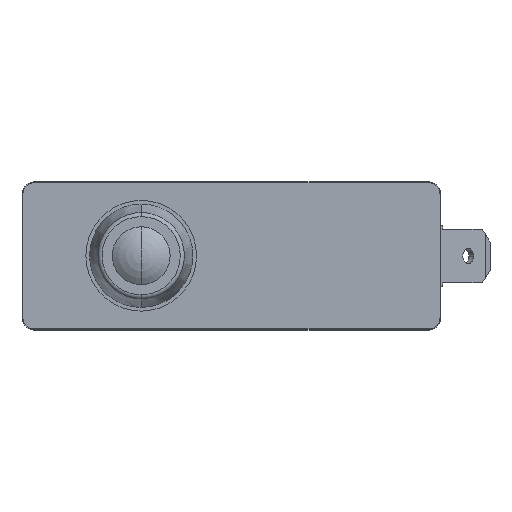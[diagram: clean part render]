
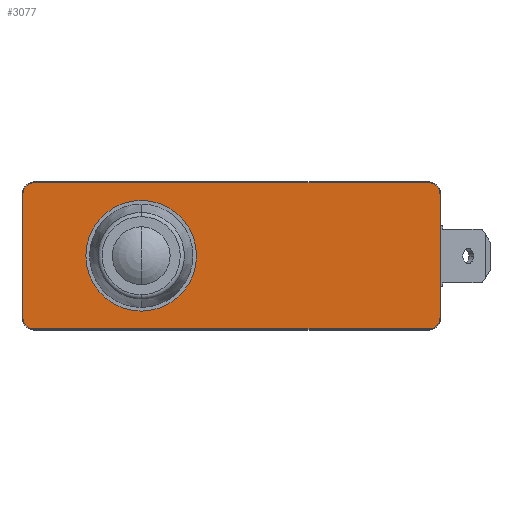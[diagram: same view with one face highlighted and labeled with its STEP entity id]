
A CAD part, top view. The second image highlights one B-rep face of the part: STEP entity #3077.
In plain terms, the highlighted planar face has unit normal (0, 0, 1).
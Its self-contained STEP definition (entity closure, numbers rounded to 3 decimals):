
#98 = CARTESIAN_POINT ( 'NONE',  ( -4.1, 0., 18.5 ) ) ;
#189 = DIRECTION ( 'NONE',  ( 1., 0., 0. ) ) ;
#357 = DIRECTION ( 'NONE',  ( 1., 0., 0. ) ) ;
#381 = ORIENTED_EDGE ( 'NONE', *, *, #6107, .T. ) ;
#499 = FACE_OUTER_BOUND ( 'NONE', #11676, .T. ) ;
#508 = CIRCLE ( 'NONE', #4083, 1.4 ) ;
#766 = VERTEX_POINT ( 'NONE', #3365 ) ;
#815 = ORIENTED_EDGE ( 'NONE', *, *, #1815, .T. ) ;
#836 = DIRECTION ( 'NONE',  ( 0., 0., 1. ) ) ;
#849 = CARTESIAN_POINT ( 'NONE',  ( 23.1, -7.2, 18.5 ) ) ;
#877 = CARTESIAN_POINT ( 'NONE',  ( -17.1, 0., 18.5 ) ) ;
#934 = DIRECTION ( 'NONE',  ( 0., 0., 1. ) ) ;
#1280 = DIRECTION ( 'NONE',  ( 0., 0., 1. ) ) ;
#1375 = DIRECTION ( 'NONE',  ( 1., 0., 0. ) ) ;
#1815 = EDGE_CURVE ( 'NONE', #7469, #3943, #5039, .T. ) ;
#2063 = DIRECTION ( 'NONE',  ( 0., 0., 1. ) ) ;
#2158 = DIRECTION ( 'NONE',  ( 0., 1., 0. ) ) ;
#2854 = EDGE_CURVE ( 'NONE', #8819, #7469, #9649, .T. ) ;
#2927 = DIRECTION ( 'NONE',  ( 0., -1., 0. ) ) ;
#2995 = LINE ( 'NONE', #10583, #7807 ) ;
#3077 = ADVANCED_FACE ( 'NONE', ( #499, #3679 ), #6678, .T. ) ;
#3207 = CIRCLE ( 'NONE', #11844, 1.4 ) ;
#3255 = ORIENTED_EDGE ( 'NONE', *, *, #8228, .F. ) ;
#3365 = CARTESIAN_POINT ( 'NONE',  ( -23.1, 8.6, 18.5 ) ) ;
#3466 = ORIENTED_EDGE ( 'NONE', *, *, #11164, .T. ) ;
#3679 = FACE_BOUND ( 'NONE', #7503, .T. ) ;
#3815 = CARTESIAN_POINT ( 'NONE',  ( 23.1, -8.6, 18.5 ) ) ;
#3943 = VERTEX_POINT ( 'NONE', #7796 ) ;
#4056 = ORIENTED_EDGE ( 'NONE', *, *, #7732, .T. ) ;
#4057 = CARTESIAN_POINT ( 'NONE',  ( -24.5, 7.2, 18.5 ) ) ;
#4083 = AXIS2_PLACEMENT_3D ( 'NONE', #7034, #1280, #8002 ) ;
#4243 = CIRCLE ( 'NONE', #9993, 6.5 ) ;
#4247 = CARTESIAN_POINT ( 'NONE',  ( -10.6, 0., 18.5 ) ) ;
#4384 = AXIS2_PLACEMENT_3D ( 'NONE', #11677, #5930, #189 ) ;
#4516 = ORIENTED_EDGE ( 'NONE', *, *, #5366, .F. ) ;
#4688 = CIRCLE ( 'NONE', #6539, 1.4 ) ;
#5039 = CIRCLE ( 'NONE', #4384, 1.4 ) ;
#5176 = DIRECTION ( 'NONE',  ( -1., 0., 0. ) ) ;
#5204 = DIRECTION ( 'NONE',  ( 1., 0., 0. ) ) ;
#5366 = EDGE_CURVE ( 'NONE', #8236, #11858, #11103, .T. ) ;
#5814 = ORIENTED_EDGE ( 'NONE', *, *, #2854, .T. ) ;
#5885 = CARTESIAN_POINT ( 'NONE',  ( 24.5, -7.2, 18.5 ) ) ;
#5930 = DIRECTION ( 'NONE',  ( 0., 0., 1. ) ) ;
#6091 = DIRECTION ( 'NONE',  ( 0., 0., 1. ) ) ;
#6107 = EDGE_CURVE ( 'NONE', #9107, #11221, #3207, .T. ) ;
#6216 = VECTOR ( 'NONE', #5176, 1000. ) ;
#6481 = LINE ( 'NONE', #7132, #11281 ) ;
#6513 = LINE ( 'NONE', #9925, #6216 ) ;
#6539 = AXIS2_PLACEMENT_3D ( 'NONE', #7808, #2063, #8771 ) ;
#6567 = CARTESIAN_POINT ( 'NONE',  ( -10.6, 0., 18.5 ) ) ;
#6678 = PLANE ( 'NONE',  #7093 ) ;
#7034 = CARTESIAN_POINT ( 'NONE',  ( 23.1, -7.2, 18.5 ) ) ;
#7093 = AXIS2_PLACEMENT_3D ( 'NONE', #849, #934, #7644 ) ;
#7094 = VERTEX_POINT ( 'NONE', #4057 ) ;
#7132 = CARTESIAN_POINT ( 'NONE',  ( -23.1, -8.6, 18.5 ) ) ;
#7249 = CARTESIAN_POINT ( 'NONE',  ( -23.1, -8.6, 18.5 ) ) ;
#7398 = CARTESIAN_POINT ( 'NONE',  ( -24.5, -7.2, 18.5 ) ) ;
#7469 = VERTEX_POINT ( 'NONE', #10400 ) ;
#7503 = EDGE_LOOP ( 'NONE', ( #4516, #3255 ) ) ;
#7558 = DIRECTION ( 'NONE',  ( 1., 0., 0. ) ) ;
#7644 = DIRECTION ( 'NONE',  ( 1., 0., 0. ) ) ;
#7716 = VECTOR ( 'NONE', #2158, 1000. ) ;
#7732 = EDGE_CURVE ( 'NONE', #11221, #10027, #6481, .T. ) ;
#7796 = CARTESIAN_POINT ( 'NONE',  ( 23.1, 8.6, 18.5 ) ) ;
#7807 = VECTOR ( 'NONE', #2927, 1000. ) ;
#7808 = CARTESIAN_POINT ( 'NONE',  ( -23.1, 7.2, 18.5 ) ) ;
#7892 = CARTESIAN_POINT ( 'NONE',  ( 24.5, -7.2, 18.5 ) ) ;
#8002 = DIRECTION ( 'NONE',  ( 1., 0., 0. ) ) ;
#8228 = EDGE_CURVE ( 'NONE', #11858, #8236, #4243, .T. ) ;
#8236 = VERTEX_POINT ( 'NONE', #877 ) ;
#8771 = DIRECTION ( 'NONE',  ( 1., 0., 0. ) ) ;
#8818 = ORIENTED_EDGE ( 'NONE', *, *, #9270, .T. ) ;
#8819 = VERTEX_POINT ( 'NONE', #5885 ) ;
#8885 = ORIENTED_EDGE ( 'NONE', *, *, #10308, .T. ) ;
#9107 = VERTEX_POINT ( 'NONE', #7398 ) ;
#9270 = EDGE_CURVE ( 'NONE', #766, #7094, #4688, .T. ) ;
#9649 = LINE ( 'NONE', #7892, #7716 ) ;
#9745 = EDGE_CURVE ( 'NONE', #7094, #9107, #2995, .T. ) ;
#9925 = CARTESIAN_POINT ( 'NONE',  ( 23.1, 8.6, 18.5 ) ) ;
#9993 = AXIS2_PLACEMENT_3D ( 'NONE', #6567, #836, #7558 ) ;
#10027 = VERTEX_POINT ( 'NONE', #3815 ) ;
#10308 = EDGE_CURVE ( 'NONE', #3943, #766, #6513, .T. ) ;
#10400 = CARTESIAN_POINT ( 'NONE',  ( 24.5, 7.2, 18.5 ) ) ;
#10583 = CARTESIAN_POINT ( 'NONE',  ( -24.5, 7.2, 18.5 ) ) ;
#10914 = DIRECTION ( 'NONE',  ( 0., 0., 1. ) ) ;
#11030 = AXIS2_PLACEMENT_3D ( 'NONE', #4247, #10914, #5204 ) ;
#11103 = CIRCLE ( 'NONE', #11030, 6.5 ) ;
#11164 = EDGE_CURVE ( 'NONE', #10027, #8819, #508, .T. ) ;
#11221 = VERTEX_POINT ( 'NONE', #7249 ) ;
#11281 = VECTOR ( 'NONE', #1375, 1000. ) ;
#11516 = ORIENTED_EDGE ( 'NONE', *, *, #9745, .T. ) ;
#11676 = EDGE_LOOP ( 'NONE', ( #3466, #5814, #815, #8885, #8818, #11516, #381, #4056 ) ) ;
#11677 = CARTESIAN_POINT ( 'NONE',  ( 23.1, 7.2, 18.5 ) ) ;
#11844 = AXIS2_PLACEMENT_3D ( 'NONE', #11849, #6091, #357 ) ;
#11849 = CARTESIAN_POINT ( 'NONE',  ( -23.1, -7.2, 18.5 ) ) ;
#11858 = VERTEX_POINT ( 'NONE', #98 ) ;
